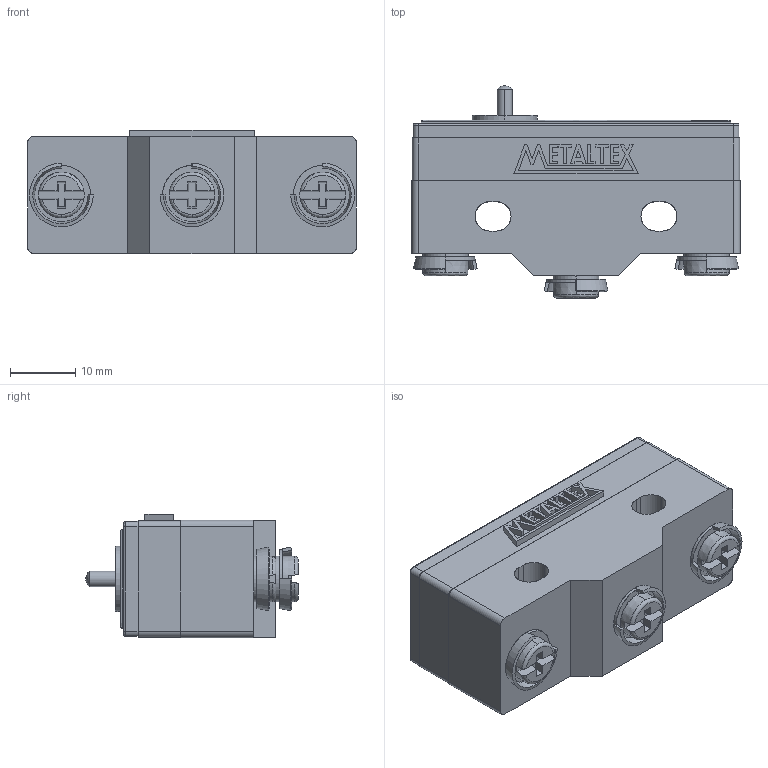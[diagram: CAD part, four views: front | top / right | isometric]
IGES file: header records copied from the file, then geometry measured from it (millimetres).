
Start section: SolidWorks IGES file using analytic representation for surfaces
Global section: file name: D:\X - Arquivos\PROEX\Empresas\P11 - METALTEX\01 - Produtos\IGES\4ª remessa\1ª etapa\FM1300.IGS; native system: SolidWorks 2012; preprocessor: SolidWorks 2012; author: Usuario; date: 180323.102537; units: millimetre
Bounding box: 50.3 x 32.48 x 18.9 mm (x, y, z)
Surface area: 6145.8 mm2 (no closed solid volume)
Topology: 0 solids, 0 shells, 256 faces, 2361 edges, 2361 vertices
Faces by surface type: bspline 193, revolution 63
